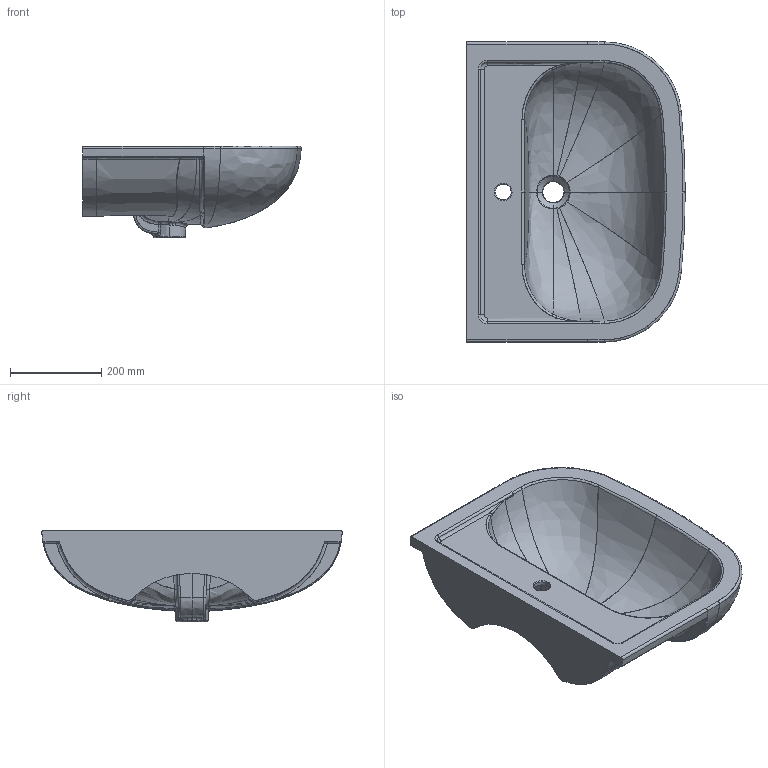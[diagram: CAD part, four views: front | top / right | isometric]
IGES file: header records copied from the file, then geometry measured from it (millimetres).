
Start section: START RECORD GO HERE.
Global section: file name: 6003_3D.igs; native system: DASSAULT SYSTEMES CATIA V5 R19 - www.3ds.com; preprocessor: CATIA Version 5 Release 19 SP 5 ; author: gioge; organization: LAPTOP-G94B6G74; date: 20201025.095847; units: millimetre
Bounding box: 479.93 x 659.84 x 201.5 mm (x, y, z)
Surface area: 1007365.2 mm2 (no closed solid volume)
Topology: 0 solids, 0 shells, 250 faces, 1183 edges, 1170 vertices
Faces by surface type: bspline 174, revolution 51, plane 21, extrusion 4
